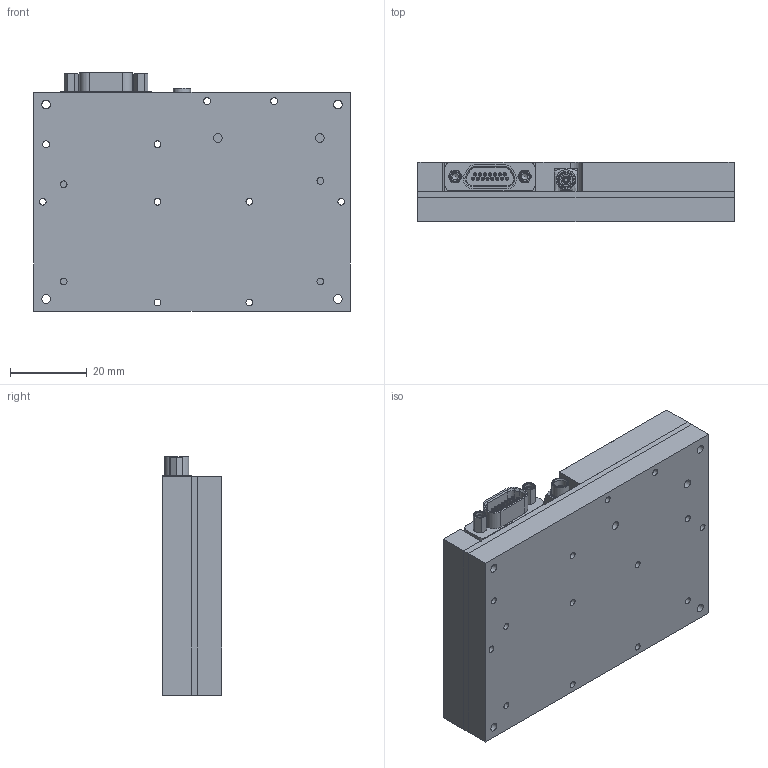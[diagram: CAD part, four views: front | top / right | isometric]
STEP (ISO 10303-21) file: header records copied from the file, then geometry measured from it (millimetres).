
FILE_DESCRIPTION (( 'STEP AP214' ), '1' );
FILE_NAME ('TRX-U_Assembly.STEP', '2016-02-11T20:53:41', ( '' ), ( '' ), 'SwSTEP 2.0', 'SolidWorks 2013', '' );
FILE_SCHEMA (( 'AUTOMOTIVE_DESIGN' ));
Length unit declared in the file: millimetre
Products named in the file (6): 15 F Micro-D CBR_1; TRX-U_Assembly; TRX-U_Top; MCX Jack RA_1; TRX-U_Base; TRX-U_PCB Mockup
Assembly tree (5 placements, depth 2):
  TRX-U_Assembly
    TRX-U_Base
    TRX-U_PCB Mockup
    TRX-U_Top
    15 F Micro-D CBR_1
    MCX Jack RA_1
Bounding box: 82.55 x 15.56 x 62.26 mm (x, y, z)
Volume: 47038 mm3; surface area: 38475.8 mm2
Topology: 4 solids, 8 shells, 473 faces, 1187 edges, 775 vertices
Faces by surface type: cylinder 196, plane 188, cone 74, bspline 8, torus 7
Full cylindrical faces by diameter (mm): 0.483 x15, 0.571 x4, 0.572 x3, 0.635 x15, 0.648 x8, 0.825 x15, 0.96 x2, 1.397 x5, 1.694 x2, 1.778 x14, 1.89 x1, 2.261 x10, 2.362 x2, 2.438 x18, 2.705 x10, 3.264 x4, 3.45 x1, 3.67 x1, 4.5 x1
Entity records: 14356 total; most frequent: CARTESIAN_POINT 3239, DIRECTION 2274, ORIENTED_EDGE 1920, EDGE_CURVE 966, AXIS2_PLACEMENT_3D 925, EDGE_LOOP 863, VERTEX_POINT 741, FACE_OUTER_BOUND 619
